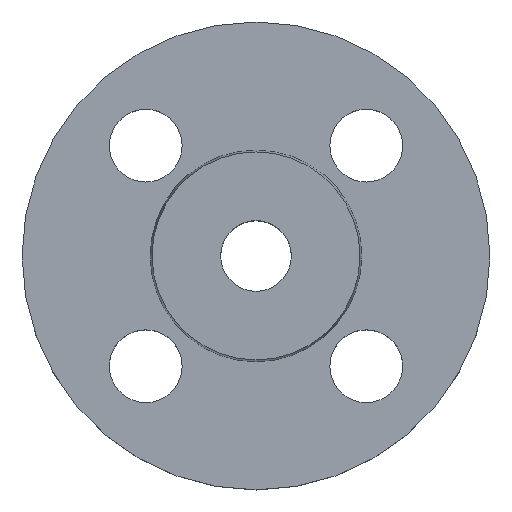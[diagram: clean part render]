
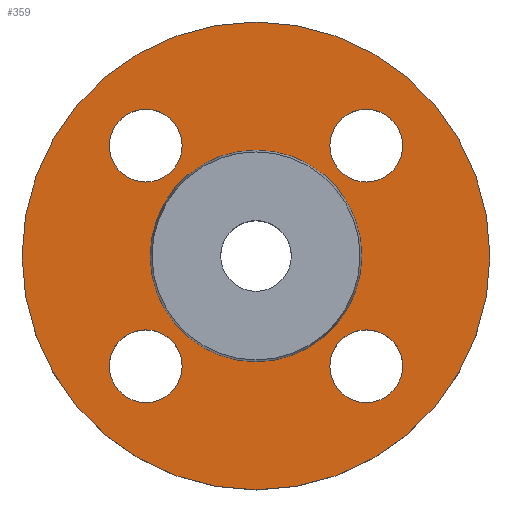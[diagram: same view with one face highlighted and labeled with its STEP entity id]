
A CAD part, top view. The second image highlights one B-rep face of the part: STEP entity #359.
In plain terms, the highlighted planar face has unit normal (0, 0, 1).
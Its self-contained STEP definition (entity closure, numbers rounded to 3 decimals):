
#27 = CIRCLE ( 'NONE', #28, 45. ) ;
#28 = AXIS2_PLACEMENT_3D ( 'NONE', #203, #180, #177 ) ;
#30 = CIRCLE ( 'NONE', #120, 7. ) ;
#32 = CIRCLE ( 'NONE', #33, 20.353 ) ;
#33 = AXIS2_PLACEMENT_3D ( 'NONE', #148, #145, #144 ) ;
#50 = CIRCLE ( 'NONE', #72, 7. ) ;
#58 = VERTEX_POINT ( 'NONE', #801 ) ;
#59 = CIRCLE ( 'NONE', #453, 7. ) ;
#65 = EDGE_LOOP ( 'NONE', ( #711, #712 ) ) ;
#72 = AXIS2_PLACEMENT_3D ( 'NONE', #526, #527, #528 ) ;
#74 = CIRCLE ( 'NONE', #84, 7. ) ;
#84 = AXIS2_PLACEMENT_3D ( 'NONE', #334, #331, #335 ) ;
#86 = CIRCLE ( 'NONE', #103, 7. ) ;
#91 = AXIS2_PLACEMENT_3D ( 'NONE', #539, #540, #541 ) ;
#103 = AXIS2_PLACEMENT_3D ( 'NONE', #134, #133, #132 ) ;
#104 = AXIS2_PLACEMENT_3D ( 'NONE', #349, #350, #351 ) ;
#106 = CIRCLE ( 'NONE', #108, 7. ) ;
#108 = AXIS2_PLACEMENT_3D ( 'NONE', #542, #544, #545 ) ;
#120 = AXIS2_PLACEMENT_3D ( 'NONE', #176, #175, #174 ) ;
#124 = CIRCLE ( 'NONE', #277, 45. ) ;
#132 = DIRECTION ( 'NONE',  ( 1., 0., 0. ) ) ;
#133 = DIRECTION ( 'NONE',  ( 0., 0., -1. ) ) ;
#134 = CARTESIAN_POINT ( 'NONE',  ( 21.213, -21.213, -2. ) ) ;
#136 = DIRECTION ( 'NONE',  ( 1., 0., 0. ) ) ;
#144 = DIRECTION ( 'NONE',  ( -1., 0., 0. ) ) ;
#145 = DIRECTION ( 'NONE',  ( 0., 0., -1. ) ) ;
#148 = CARTESIAN_POINT ( 'NONE',  ( 0., 0., -2. ) ) ;
#149 = CARTESIAN_POINT ( 'NONE',  ( 45., 0., -2. ) ) ;
#151 = CARTESIAN_POINT ( 'NONE',  ( -20.353, 0., -2. ) ) ;
#154 = CIRCLE ( 'NONE', #104, 7. ) ;
#155 = CARTESIAN_POINT ( 'NONE',  ( 20.353, 0., -2. ) ) ;
#156 = CARTESIAN_POINT ( 'NONE',  ( 14.213, -21.213, -2. ) ) ;
#161 = EDGE_CURVE ( 'NONE', #750, #504, #154, .T. ) ;
#172 = CARTESIAN_POINT ( 'NONE',  ( -14.213, -21.213, -2. ) ) ;
#174 = DIRECTION ( 'NONE',  ( 1., 0., 0. ) ) ;
#175 = DIRECTION ( 'NONE',  ( 0., 0., -1. ) ) ;
#176 = CARTESIAN_POINT ( 'NONE',  ( 21.213, 21.213, -2. ) ) ;
#177 = DIRECTION ( 'NONE',  ( -1., 0., 0. ) ) ;
#180 = DIRECTION ( 'NONE',  ( 0., 0., -1. ) ) ;
#184 = AXIS2_PLACEMENT_3D ( 'NONE', #501, #502, #503 ) ;
#193 = CIRCLE ( 'NONE', #91, 7. ) ;
#203 = CARTESIAN_POINT ( 'NONE',  ( 0., 0., -2. ) ) ;
#207 = CARTESIAN_POINT ( 'NONE',  ( -45., 0., -2. ) ) ;
#208 = CARTESIAN_POINT ( 'NONE',  ( 28.213, 21.213, -2. ) ) ;
#228 = CARTESIAN_POINT ( 'NONE',  ( -28.213, 21.213, -2. ) ) ;
#235 = DIRECTION ( 'NONE',  ( -1., 0., 0. ) ) ;
#238 = DIRECTION ( 'NONE',  ( 0., 0., -1. ) ) ;
#239 = CARTESIAN_POINT ( 'NONE',  ( 0., 0., -2. ) ) ;
#256 = CARTESIAN_POINT ( 'NONE',  ( -28.213, -21.213, -2. ) ) ;
#273 = CARTESIAN_POINT ( 'NONE',  ( 14.213, 21.213, -2. ) ) ;
#277 = AXIS2_PLACEMENT_3D ( 'NONE', #239, #238, #235 ) ;
#287 = CIRCLE ( 'NONE', #787, 20.353 ) ;
#325 = EDGE_CURVE ( 'NONE', #681, #574, #59, .T. ) ;
#331 = DIRECTION ( 'NONE',  ( 0., 0., -1. ) ) ;
#334 = CARTESIAN_POINT ( 'NONE',  ( -21.213, 21.213, -2. ) ) ;
#335 = DIRECTION ( 'NONE',  ( 1., 0., 0. ) ) ;
#349 = CARTESIAN_POINT ( 'NONE',  ( 21.213, -21.213, -2. ) ) ;
#350 = DIRECTION ( 'NONE',  ( 0., 0., -1. ) ) ;
#351 = DIRECTION ( 'NONE',  ( 1., 0., 0. ) ) ;
#359 = ADVANCED_FACE ( 'NONE', ( #477, #495, #496, #497, #498, #499 ), #500, .T. ) ;
#366 = CARTESIAN_POINT ( 'NONE',  ( 28.213, -21.213, -2. ) ) ;
#416 = EDGE_CURVE ( 'NONE', #756, #751, #287, .T. ) ;
#420 = EDGE_CURVE ( 'NONE', #608, #714, #50, .T. ) ;
#432 = EDGE_CURVE ( 'NONE', #714, #608, #193, .T. ) ;
#433 = EDGE_CURVE ( 'NONE', #649, #58, #106, .T. ) ;
#440 = EDGE_CURVE ( 'NONE', #58, #649, #74, .T. ) ;
#453 = AXIS2_PLACEMENT_3D ( 'NONE', #456, #457, #136 ) ;
#456 = CARTESIAN_POINT ( 'NONE',  ( 21.213, 21.213, -2. ) ) ;
#457 = DIRECTION ( 'NONE',  ( 0., 0., -1. ) ) ;
#477 = FACE_BOUND ( 'NONE', #766, .T. ) ;
#486 = EDGE_LOOP ( 'NONE', ( #709, #710 ) ) ;
#495 = FACE_BOUND ( 'NONE', #633, .T. ) ;
#496 = FACE_BOUND ( 'NONE', #749, .T. ) ;
#497 = FACE_BOUND ( 'NONE', #741, .T. ) ;
#498 = FACE_BOUND ( 'NONE', #486, .T. ) ;
#499 = FACE_OUTER_BOUND ( 'NONE', #65, .T. ) ;
#500 = PLANE ( 'NONE',  #184 ) ;
#501 = CARTESIAN_POINT ( 'NONE',  ( 20.353, 0., -2. ) ) ;
#502 = DIRECTION ( 'NONE',  ( 0., 0., 1. ) ) ;
#503 = DIRECTION ( 'NONE',  ( 1., 0., 0. ) ) ;
#504 = VERTEX_POINT ( 'NONE', #366 ) ;
#519 = CARTESIAN_POINT ( 'NONE',  ( 0., 0., -2. ) ) ;
#523 = DIRECTION ( 'NONE',  ( 0., 0., -1. ) ) ;
#524 = DIRECTION ( 'NONE',  ( -1., 0., 0. ) ) ;
#526 = CARTESIAN_POINT ( 'NONE',  ( -21.213, -21.213, -2. ) ) ;
#527 = DIRECTION ( 'NONE',  ( 0., 0., -1. ) ) ;
#528 = DIRECTION ( 'NONE',  ( 1., 0., 0. ) ) ;
#539 = CARTESIAN_POINT ( 'NONE',  ( -21.213, -21.213, -2. ) ) ;
#540 = DIRECTION ( 'NONE',  ( 0., 0., -1. ) ) ;
#541 = DIRECTION ( 'NONE',  ( 1., 0., 0. ) ) ;
#542 = CARTESIAN_POINT ( 'NONE',  ( -21.213, 21.213, -2. ) ) ;
#544 = DIRECTION ( 'NONE',  ( 0., 0., -1. ) ) ;
#545 = DIRECTION ( 'NONE',  ( 1., 0., 0. ) ) ;
#574 = VERTEX_POINT ( 'NONE', #273 ) ;
#608 = VERTEX_POINT ( 'NONE', #256 ) ;
#626 = EDGE_CURVE ( 'NONE', #686, #759, #124, .T. ) ;
#633 = EDGE_LOOP ( 'NONE', ( #699, #700 ) ) ;
#649 = VERTEX_POINT ( 'NONE', #228 ) ;
#681 = VERTEX_POINT ( 'NONE', #208 ) ;
#686 = VERTEX_POINT ( 'NONE', #207 ) ;
#695 = ORIENTED_EDGE ( 'NONE', *, *, #807, .T. ) ;
#696 = ORIENTED_EDGE ( 'NONE', *, *, #161, .T. ) ;
#699 = ORIENTED_EDGE ( 'NONE', *, *, #432, .T. ) ;
#700 = ORIENTED_EDGE ( 'NONE', *, *, #420, .T. ) ;
#701 = ORIENTED_EDGE ( 'NONE', *, *, #440, .T. ) ;
#702 = ORIENTED_EDGE ( 'NONE', *, *, #433, .T. ) ;
#705 = EDGE_CURVE ( 'NONE', #759, #686, #27, .T. ) ;
#706 = ORIENTED_EDGE ( 'NONE', *, *, #325, .T. ) ;
#707 = EDGE_CURVE ( 'NONE', #574, #681, #30, .T. ) ;
#708 = ORIENTED_EDGE ( 'NONE', *, *, #707, .T. ) ;
#709 = ORIENTED_EDGE ( 'NONE', *, *, #416, .T. ) ;
#710 = ORIENTED_EDGE ( 'NONE', *, *, #761, .T. ) ;
#711 = ORIENTED_EDGE ( 'NONE', *, *, #705, .F. ) ;
#712 = ORIENTED_EDGE ( 'NONE', *, *, #626, .F. ) ;
#714 = VERTEX_POINT ( 'NONE', #172 ) ;
#741 = EDGE_LOOP ( 'NONE', ( #706, #708 ) ) ;
#749 = EDGE_LOOP ( 'NONE', ( #701, #702 ) ) ;
#750 = VERTEX_POINT ( 'NONE', #156 ) ;
#751 = VERTEX_POINT ( 'NONE', #155 ) ;
#756 = VERTEX_POINT ( 'NONE', #151 ) ;
#759 = VERTEX_POINT ( 'NONE', #149 ) ;
#761 = EDGE_CURVE ( 'NONE', #751, #756, #32, .T. ) ;
#766 = EDGE_LOOP ( 'NONE', ( #695, #696 ) ) ;
#787 = AXIS2_PLACEMENT_3D ( 'NONE', #519, #523, #524 ) ;
#801 = CARTESIAN_POINT ( 'NONE',  ( -14.213, 21.213, -2. ) ) ;
#807 = EDGE_CURVE ( 'NONE', #504, #750, #86, .T. ) ;
